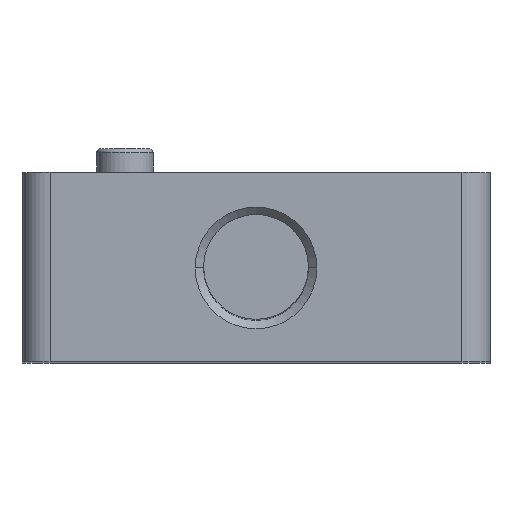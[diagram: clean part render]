
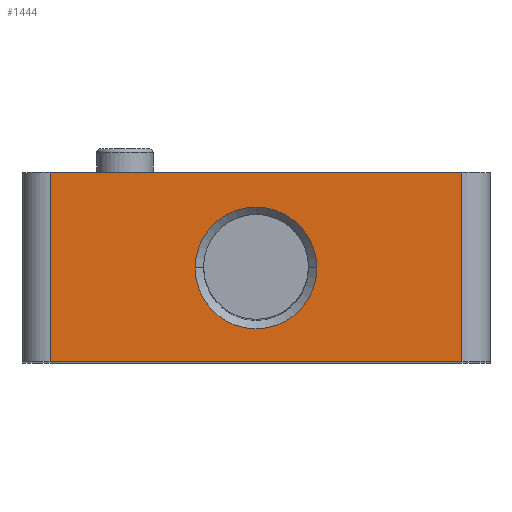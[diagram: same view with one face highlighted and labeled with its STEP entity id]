
A CAD part, top view. The second image highlights one B-rep face of the part: STEP entity #1444.
In plain terms, the highlighted planar face has unit normal (0, 0, 1).
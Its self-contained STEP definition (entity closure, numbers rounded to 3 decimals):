
#150=DIRECTION('',(-1.,0.,0.));
#151=VECTOR('',#150,22.);
#152=CARTESIAN_POINT('',(11.,0.,0.));
#153=LINE('',#152,#151);
#258=DIRECTION('',(0.,1.,0.));
#259=VECTOR('',#258,10.1);
#260=CARTESIAN_POINT('',(11.,-10.1,0.));
#261=LINE('',#260,#259);
#333=DIRECTION('',(0.,1.,0.));
#334=VECTOR('',#333,10.1);
#335=CARTESIAN_POINT('',(-11.,-10.1,0.));
#336=LINE('',#335,#334);
#384=DIRECTION('',(-1.,0.,0.));
#385=VECTOR('',#384,22.);
#386=CARTESIAN_POINT('',(11.,-10.1,0.));
#387=LINE('',#386,#385);
#650=CARTESIAN_POINT('',(0.,-5.1,0.));
#651=DIRECTION('',(0.,0.,1.));
#652=DIRECTION('',(1.,0.,0.));
#653=AXIS2_PLACEMENT_3D('',#650,#651,#652);
#687=CARTESIAN_POINT('',(0.,-5.1,0.));
#688=DIRECTION('',(0.,0.,1.));
#689=DIRECTION('',(-1.,0.,0.));
#690=AXIS2_PLACEMENT_3D('',#687,#688,#689);
#1115=CARTESIAN_POINT('',(11.,-10.1,0.));
#1116=VERTEX_POINT('',#1115);
#1117=CARTESIAN_POINT('',(11.,0.,0.));
#1118=VERTEX_POINT('',#1117);
#1119=CARTESIAN_POINT('',(-11.,-10.1,0.));
#1120=CARTESIAN_POINT('',(-11.,0.,0.));
#1121=VERTEX_POINT('',#1119);
#1122=VERTEX_POINT('',#1120);
#1143=CARTESIAN_POINT('',(-3.25,-5.1,0.));
#1144=CARTESIAN_POINT('',(3.25,-5.1,0.));
#1145=VERTEX_POINT('',#1143);
#1146=VERTEX_POINT('',#1144);
#1426=CARTESIAN_POINT('',(12.5,0.,0.));
#1427=DIRECTION('',(0.,0.,1.));
#1428=DIRECTION('',(-1.,0.,0.));
#1429=AXIS2_PLACEMENT_3D('',#1426,#1427,#1428);
#1430=PLANE('',#1429);
#1431=ORIENTED_EDGE('',*,*,#1287,.F.);
#1433=ORIENTED_EDGE('',*,*,#1432,.T.);
#1434=ORIENTED_EDGE('',*,*,#1410,.T.);
#1435=ORIENTED_EDGE('',*,*,#1230,.F.);
#1436=EDGE_LOOP('',(#1431,#1433,#1434,#1435));
#1437=FACE_OUTER_BOUND('',#1436,.F.);
#1439=ORIENTED_EDGE('',*,*,#1438,.T.);
#1441=ORIENTED_EDGE('',*,*,#1440,.T.);
#1442=EDGE_LOOP('',(#1439,#1441));
#1443=FACE_BOUND('',#1442,.F.);
#654=CIRCLE('',#653,3.25);
#691=CIRCLE('',#690,3.25);
#1230=EDGE_CURVE('',#1118,#1122,#153,.T.);
#1287=EDGE_CURVE('',#1116,#1118,#261,.T.);
#1410=EDGE_CURVE('',#1121,#1122,#336,.T.);
#1432=EDGE_CURVE('',#1116,#1121,#387,.T.);
#1438=EDGE_CURVE('',#1146,#1145,#654,.T.);
#1440=EDGE_CURVE('',#1145,#1146,#691,.T.);
#1444=ADVANCED_FACE('',(#1437,#1443),#1430,.T.);
